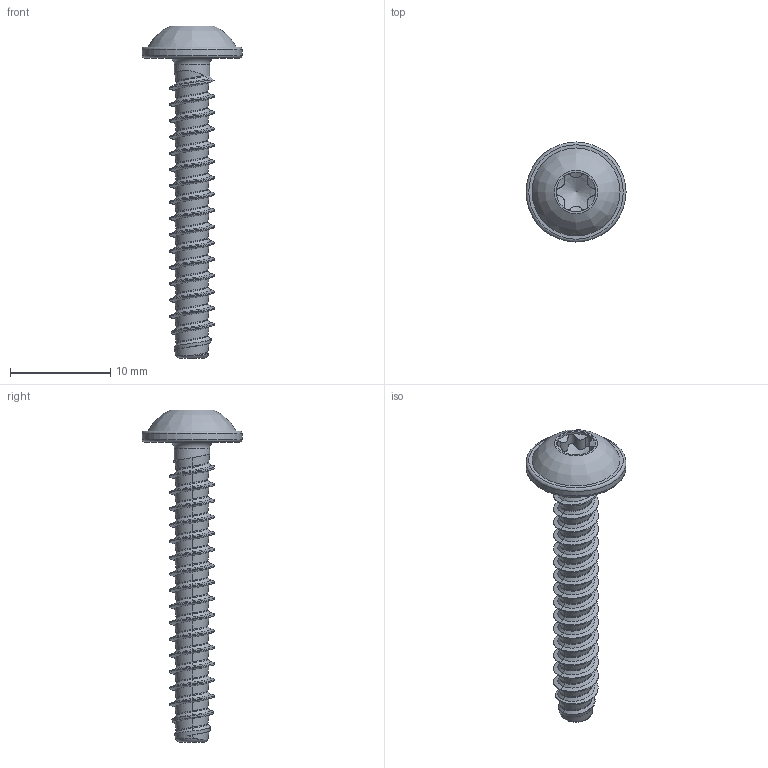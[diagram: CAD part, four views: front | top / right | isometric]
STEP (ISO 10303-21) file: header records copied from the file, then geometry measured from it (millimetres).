
FILE_DESCRIPTION(/* description */ (''),/* implementation_level */ '2;1');
FILE_NAME(/* name */ 'KN6038-STSplus-45x30-T20.step',/* time_stamp */ '2017-10-10T17:04:49+02:00',/* author */ (''),/* organization */ (''),/* preprocessor_version */ 'ST-DEVELOPER v16',/* originating_system */ 'SIEMENS PLM Software NX 10.0',/* authorisation */ '');
FILE_SCHEMA (('AUTOMOTIVE_DESIGN { 1 0 10303 214 3 1 1 1 }'));
Length unit declared in the file: millimetre
Products named in the file (1): KN6038STSplus-45x30-T20
Bounding box: 10 x 10 x 33.2 mm (x, y, z)
Volume: 442.1 mm3; surface area: 713.5 mm2
Topology: 1 solids, 1 shells, 125 faces, 286 edges, 165 vertices
Faces by surface type: bspline 92, cylinder 16, cone 9, torus 4, plane 4
Full cylindrical faces by diameter (mm): 3.53 x1, 3.95 x1, 10 x1
Entity records: 8613 total; most frequent: CARTESIAN_POINT 6453, ORIENTED_EDGE 544, EDGE_CURVE 272, DIRECTION 207, VERTEX_POINT 161, B_SPLINE_CURVE_WITH_KNOTS 153, EDGE_LOOP 136, ADVANCED_FACE 125
